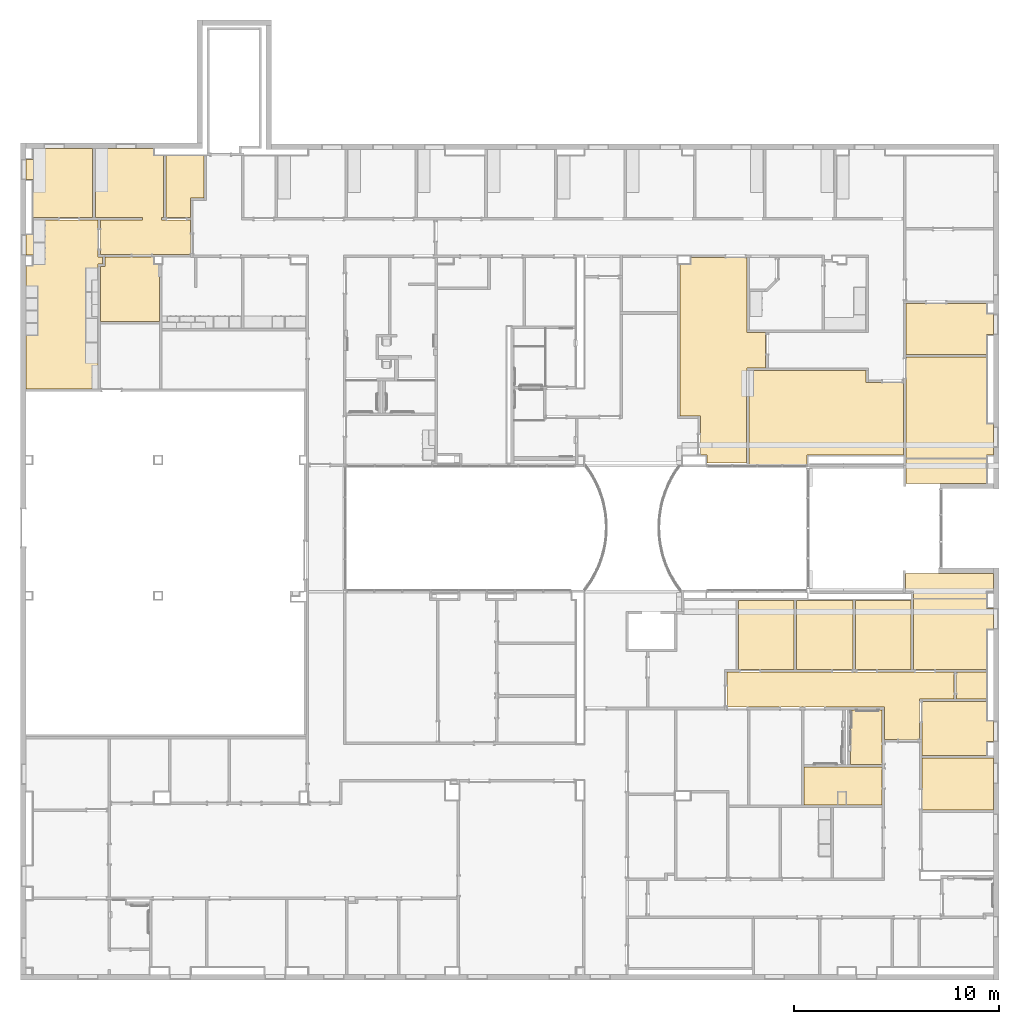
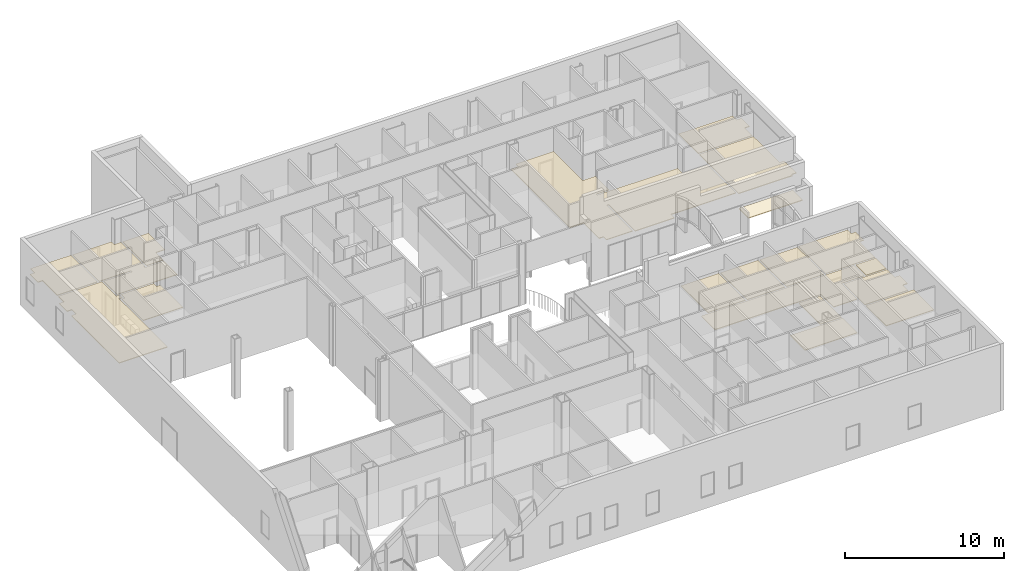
# One storey, part 28 of 45: 20 coverings.
"""IFC2X3 building model written with IfcOpenShell, lengths in metres."""

from ifc_helpers import new_model, entity, si_unit, converted_unit, frame, origin, place, context, project, spatial, face_set, surface_model, material, layer, layer_set, layer_usage, element, save


model = new_model("IFC2X3")

# Units and contexts
model_context = context("Model", 3, precision=1e-09, world=origin())
plan_context = context("Plan", 3, precision=1e-09, world=origin())
ifc_project = project(units=[si_unit("LENGTHUNIT", "METRE"), si_unit("AREAUNIT", "SQUARE_METRE"), si_unit("VOLUMEUNIT", "CUBIC_METRE"), converted_unit("PLANEANGLEUNIT", "DEGREE", entity("IfcRatioMeasure", 0.01745329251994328), si_unit("PLANEANGLEUNIT", "RADIAN"), dimensions=[0, 0, 0, 0, 0, 0, 0]), si_unit("TIMEUNIT", "SECOND")], contexts=[model_context, plan_context])

# Site, building, storey
site_placement = place(None, origin())
site = spatial("IfcSite", under=ifc_project, at=site_placement, Name="Default", CompositionType="ELEMENT")
building_placement = place(site_placement, origin())
building = spatial("IfcBuilding", under=site, at=building_placement, CompositionType="ELEMENT")
storey_placement = place(building_placement, frame((0.0, 0.0, 4.570000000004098)))
storey = spatial("IfcBuildingStorey", under=building, at=storey_placement, Name="Second Floor", CompositionType="ELEMENT", Elevation=4.570000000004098)

# Coverings
ifc_material_1 = material(Name="Default")
ifc_layer_1 = layer(ifc_material_1, 0.03599999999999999)
ifc_material_2 = material(Name="Ceiling Tile 600 x 600")
ifc_layer_2 = layer(ifc_material_2, 0.016)
ifc_layer_set_1 = layer_set([ifc_layer_1, ifc_layer_2], Name="Compound Ceiling:ACT 600 x 600mm Grid")
ifc_layer_usage_1 = layer_usage(ifc_layer_set_1, "AXIS3", "NEGATIVE", 0.0)
covering_1_placement = place(storey_placement, origin())
element("IfcCovering", 1, at=covering_1_placement, inside=storey, material=ifc_layer_usage_1, Name="Compound Ceiling:ACT 600 x 600mm Grid", ObjectType="Compound Ceiling:ACT 600 x 600mm Grid", PredefinedType="CEILING", context=model_context, shape_type="SurfaceModel", body=[
    surface_model("IfcFaceBasedSurfaceModel", [(-12.88600000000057, 24.68443871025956, 2.732000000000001), (-1.810000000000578, 24.68443871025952, 2.732000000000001), (-1.810000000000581, 23.38443871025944, 2.732000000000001), (-3.49000000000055, 23.38443871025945, 2.732000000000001), (-3.490000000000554, 21.40103871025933, 2.732000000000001), (-5.200000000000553, 21.40103871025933, 2.732000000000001), (-5.200000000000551, 22.97443871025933, 2.732000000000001), (-12.88600000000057, 22.97443871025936, 2.732000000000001), (-12.88600000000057, 24.68443871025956, 2.680000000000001), (-1.810000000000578, 24.68443871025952, 2.680000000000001), (-1.810000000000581, 23.38443871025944, 2.680000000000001), (-3.49000000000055, 23.38443871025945, 2.680000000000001), (-3.490000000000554, 21.40103871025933, 2.680000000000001), (-5.200000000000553, 21.40103871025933, 2.680000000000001), (-5.200000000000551, 22.97443871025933, 2.680000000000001), (-12.88600000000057, 22.97443871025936, 2.680000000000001)], [face_set([[[0, 1, 2, 3, 4, 5, 6, 7]], [[8, 9, 10, 11, 12, 13, 14, 15]], [[7, 15, 8, 0]], [[6, 7, 15, 14]], [[5, 13, 14, 6]], [[4, 5, 13, 12]], [[3, 4, 12, 11]], [[2, 3, 11, 10]], [[1, 2, 10, 9]], [[0, 8, 9, 1]]])]),
])
covering_2_placement = place(storey_placement, origin())
element("IfcCovering", 2, at=covering_2_placement, inside=storey, material=ifc_layer_usage_1, Name="Compound Ceiling:ACT 600 x 600mm Grid", ObjectType="Compound Ceiling:ACT 600 x 600mm Grid", PredefinedType="CEILING", context=model_context, shape_type="SurfaceModel", body=[
    surface_model("IfcFaceBasedSurfaceModel", [(-1.686000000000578, 24.68443871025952, 2.732000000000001), (-0.2300000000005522, 24.68443871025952, 2.732000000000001), (-0.230000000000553, 23.38443871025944, 2.732000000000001), (-1.686000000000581, 23.38443871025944, 2.732000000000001), (-1.686000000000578, 24.68443871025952, 2.680000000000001), (-0.2300000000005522, 24.68443871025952, 2.680000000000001), (-0.2300000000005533, 23.38443871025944, 2.680000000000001), (-1.686000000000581, 23.38443871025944, 2.680000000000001)], [face_set([[[0, 1, 2, 3]], [[4, 5, 6, 7]], [[3, 7, 4, 0]], [[2, 3, 7, 6]], [[1, 2, 6, 5]], [[0, 4, 5, 1]]])]),
])
covering_3_placement = place(storey_placement, origin())
element("IfcCovering", 3, at=covering_3_placement, inside=storey, material=ifc_layer_usage_1, Name="Compound Ceiling:ACT 600 x 600mm Grid", ObjectType="Compound Ceiling:ACT 600 x 600mm Grid", PredefinedType="CEILING", context=model_context, shape_type="SurfaceModel", body=[
    surface_model("IfcFaceBasedSurfaceModel", [(-6.629975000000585, 24.80843871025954, 2.732000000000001), (-6.629975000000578, 28.18443871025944, 2.732000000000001), (-3.913975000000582, 28.18443871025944, 2.732000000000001), (-3.913975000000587, 24.80843871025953, 2.732000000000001), (-6.629975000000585, 24.80843871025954, 2.680000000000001), (-6.629975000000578, 28.18443871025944, 2.680000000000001), (-3.913975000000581, 28.18443871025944, 2.680000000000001), (-3.913975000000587, 24.80843871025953, 2.680000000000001)], [face_set([[[0, 1, 2, 3]], [[4, 5, 6, 7]], [[3, 0, 4, 7]], [[2, 3, 7, 6]], [[1, 5, 6, 2]], [[0, 4, 5, 1]]])]),
])
covering_4_placement = place(storey_placement, origin())
element("IfcCovering", 4, at=covering_4_placement, inside=storey, material=ifc_layer_usage_1, Name="Compound Ceiling:ACT 600 x 600mm Grid", ObjectType="Compound Ceiling:ACT 600 x 600mm Grid", PredefinedType="CEILING", context=model_context, shape_type="SurfaceModel", body=[
    surface_model("IfcFaceBasedSurfaceModel", [(0.1129999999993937, 36.7956387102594, 2.732000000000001), (-0.2300000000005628, 36.7956387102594, 2.732000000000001), (-0.2300000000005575, 40.07443871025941, 2.732000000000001), (-4.146000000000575, 40.07443871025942, 2.732000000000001), (-4.146000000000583, 35.14049999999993, 2.732000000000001), (-0.2300000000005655, 35.14049999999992, 2.732000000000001), (-0.230000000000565, 35.2744387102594, 2.732000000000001), (0.1129999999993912, 35.2744387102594, 2.732000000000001), (0.1129999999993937, 36.7956387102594, 2.680000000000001), (0.1129999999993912, 35.2744387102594, 2.680000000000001), (-0.230000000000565, 35.2744387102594, 2.680000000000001), (-0.2300000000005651, 35.14049999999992, 2.680000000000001), (-4.146000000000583, 35.14049999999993, 2.680000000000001), (-4.146000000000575, 40.07443871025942, 2.680000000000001), (-0.2300000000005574, 40.07443871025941, 2.680000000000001), (-0.2300000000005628, 36.7956387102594, 2.680000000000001)], [face_set([[[0, 1, 2, 3, 4, 5, 6, 7]], [[8, 9, 10, 11, 12, 13, 14, 15]], [[2, 1, 15, 14]], [[3, 13, 14, 2]], [[4, 12, 13, 3]], [[5, 4, 12, 11]], [[6, 5, 11, 10]], [[7, 6, 10, 9]], [[0, 7, 9, 8]], [[1, 15, 8, 0]]])]),
])
covering_5_placement = place(storey_placement, origin())
element("IfcCovering", 5, at=covering_5_placement, inside=storey, material=ifc_layer_usage_1, Name="Compound Ceiling:ACT 600 x 600mm Grid", ObjectType="Compound Ceiling:ACT 600 x 600mm Grid", PredefinedType="CEILING", context=model_context, shape_type="SurfaceModel", body=[
    surface_model("IfcFaceBasedSurfaceModel", [(-14.64997500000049, 44.5844387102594, 2.732000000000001), (-14.64997500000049, 44.92043871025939, 2.732000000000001), (-11.92000000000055, 44.92043871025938, 2.732000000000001), (-11.92000000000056, 41.25443871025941, 2.732000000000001), (-11.00500000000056, 41.25443871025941, 2.732000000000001), (-11.00500000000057, 39.54443871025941, 2.732000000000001), (-11.92000000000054, 39.54443871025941, 2.732000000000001), (-11.92000000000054, 39.4204387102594, 2.732000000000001), (-6.104000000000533, 39.42043871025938, 2.732000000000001), (-6.104000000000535, 38.82043871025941, 2.732000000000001), (-4.270000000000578, 38.8204387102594, 2.732000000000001), (-4.270000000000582, 35.2744387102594, 2.732000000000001), (-8.981726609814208, 35.2744387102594, 2.732000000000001), (-8.981726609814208, 34.83380159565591, 2.732000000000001), (-11.83000000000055, 34.83380159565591, 2.732000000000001), (-11.83000000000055, 38.1449715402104, 2.732000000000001), (-11.95400000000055, 38.1449715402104, 2.732000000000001), (-11.95400000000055, 34.90443871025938, 2.732000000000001), (-13.8725000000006, 34.90443871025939, 2.732000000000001), (-13.8725000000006, 35.27443871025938, 2.732000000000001), (-14.19600000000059, 35.27443871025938, 2.732000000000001), (-14.19600000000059, 37.19843871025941, 2.732000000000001), (-15.1960000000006, 37.19843871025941, 2.732000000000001), (-15.19600000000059, 42.28643871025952, 2.732000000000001), (-15.19600000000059, 44.5844387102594, 2.732000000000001), (-14.64997500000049, 44.5844387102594, 2.680000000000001), (-14.64997500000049, 44.92043871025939, 2.680000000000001), (-11.92000000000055, 44.92043871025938, 2.680000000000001), (-11.92000000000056, 41.25443871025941, 2.680000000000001), (-11.00500000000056, 41.25443871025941, 2.680000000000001), (-11.00500000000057, 39.54443871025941, 2.680000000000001), (-11.92000000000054, 39.54443871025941, 2.680000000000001), (-11.92000000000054, 39.4204387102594, 2.680000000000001), (-6.104000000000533, 39.42043871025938, 2.680000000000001), (-6.104000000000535, 38.82043871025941, 2.680000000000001), (-4.270000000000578, 38.8204387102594, 2.680000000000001), (-4.270000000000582, 35.2744387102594, 2.680000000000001), (-8.981726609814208, 35.2744387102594, 2.680000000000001), (-8.981726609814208, 34.83380159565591, 2.680000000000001), (-11.83000000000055, 34.83380159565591, 2.680000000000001), (-11.83000000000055, 38.1449715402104, 2.680000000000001), (-11.95400000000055, 38.1449715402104, 2.680000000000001), (-11.95400000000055, 34.90443871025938, 2.680000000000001), (-13.8725000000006, 34.90443871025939, 2.680000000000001), (-13.8725000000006, 35.27443871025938, 2.680000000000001), (-14.19600000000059, 35.27443871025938, 2.680000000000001), (-14.19600000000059, 37.19843871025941, 2.680000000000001), (-15.1960000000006, 37.19843871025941, 2.680000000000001), (-15.19600000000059, 42.28643871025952, 2.680000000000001), (-15.19600000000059, 44.5844387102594, 2.680000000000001)], [face_set([[[0, 1, 2, 3, 4, 5, 6, 7, 8, 9, 10, 11, 12, 13, 14, 15, 16, 17, 18, 19, 20, 21, 22, 23, 24]], [[25, 26, 27, 28, 29, 30, 31, 32, 33, 34, 35, 36, 37, 38, 39, 40, 41, 42, 43, 44, 45, 46, 47, 48, 49]], [[24, 49, 25, 0]], [[23, 48, 49, 24]], [[22, 47, 48, 23]], [[21, 22, 47, 46]], [[20, 45, 46, 21]], [[19, 20, 45, 44]], [[18, 43, 44, 19]], [[17, 18, 43, 42]], [[16, 17, 42, 41]], [[15, 16, 41, 40]], [[14, 39, 40, 15]], [[13, 14, 39, 38]], [[12, 13, 38, 37]], [[11, 12, 37, 36]], [[10, 11, 36, 35]], [[9, 34, 35, 10]], [[8, 9, 34, 33]], [[7, 32, 33, 8]], [[6, 7, 32, 31]], [[5, 6, 31, 30]], [[4, 5, 30, 29]], [[3, 28, 29, 4]], [[2, 3, 28, 27]], [[1, 26, 27, 2]], [[0, 25, 26, 1]]])]),
])
covering_6_placement = place(storey_placement, origin())
element("IfcCovering", 6, at=covering_6_placement, inside=storey, material=ifc_layer_usage_1, Name="Compound Ceiling:ACT 600 x 600mm Grid", ObjectType="Compound Ceiling:ACT 600 x 600mm Grid", PredefinedType="CEILING", context=model_context, shape_type="SurfaceModel", body=[
    surface_model("IfcFaceBasedSurfaceModel", [(-12.32997500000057, 24.80843871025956, 2.732000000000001), (-12.32997500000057, 28.18443871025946, 2.732000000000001), (-9.613975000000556, 28.18443871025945, 2.732000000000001), (-9.613975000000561, 24.80843871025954, 2.732000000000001), (-12.32997500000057, 24.80843871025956, 2.680000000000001), (-12.32997500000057, 28.18443871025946, 2.680000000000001), (-9.613975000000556, 28.18443871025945, 2.680000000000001), (-9.613975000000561, 24.80843871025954, 2.680000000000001)], [face_set([[[0, 1, 2, 3]], [[4, 5, 6, 7]], [[3, 0, 4, 7]], [[2, 3, 7, 6]], [[1, 5, 6, 2]], [[0, 4, 5, 1]]])]),
])
covering_7_placement = place(storey_placement, origin())
element("IfcCovering", 7, at=covering_7_placement, inside=storey, material=ifc_layer_usage_1, Name="Compound Ceiling:ACT 600 x 600mm Grid", ObjectType="Compound Ceiling:ACT 600 x 600mm Grid", PredefinedType="CEILING", context=model_context, shape_type="SurfaceModel", body=[
    surface_model("IfcFaceBasedSurfaceModel", [(0.1129999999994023, 42.1644387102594, 2.732000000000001), (-0.230000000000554, 42.1644387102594, 2.732000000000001), (-0.2300000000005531, 42.67043871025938, 2.732000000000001), (-4.14600000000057, 42.6704387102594, 2.732000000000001), (-4.146000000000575, 40.19843871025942, 2.732000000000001), (-0.2300000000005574, 40.19843871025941, 2.732000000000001), (-0.2300000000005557, 41.16435057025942, 2.732000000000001), (0.1129999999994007, 41.16435057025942, 2.732000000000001), (0.1129999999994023, 42.1644387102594, 2.680000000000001), (0.1129999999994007, 41.16435057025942, 2.680000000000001), (-0.2300000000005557, 41.16435057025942, 2.680000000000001), (-0.2300000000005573, 40.19843871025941, 2.680000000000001), (-4.146000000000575, 40.19843871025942, 2.680000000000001), (-4.14600000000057, 42.6704387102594, 2.680000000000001), (-0.230000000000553, 42.67043871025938, 2.680000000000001), (-0.230000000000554, 42.1644387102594, 2.680000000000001)], [face_set([[[0, 1, 2, 3, 4, 5, 6, 7]], [[8, 9, 10, 11, 12, 13, 14, 15]], [[2, 1, 15, 14]], [[3, 13, 14, 2]], [[4, 12, 13, 3]], [[5, 4, 12, 11]], [[6, 5, 11, 10]], [[7, 6, 10, 9]], [[0, 7, 9, 8]], [[1, 15, 8, 0]]])]),
])
covering_8_placement = place(storey_placement, origin())
element("IfcCovering", 8, at=covering_8_placement, inside=storey, material=ifc_layer_usage_1, Name="Compound Ceiling:ACT 600 x 600mm Grid", ObjectType="Compound Ceiling:ACT 600 x 600mm Grid", PredefinedType="CEILING", context=model_context, shape_type="SurfaceModel", body=[
    surface_model("IfcFaceBasedSurfaceModel", [(-6.870000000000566, 20.17843871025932, 2.732000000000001), (-6.870000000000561, 22.85043871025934, 2.732000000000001), (-5.324000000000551, 22.85043871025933, 2.732000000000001), (-5.324000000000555, 20.17843871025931, 2.732000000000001), (-6.870000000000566, 20.17843871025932, 2.680000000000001), (-6.870000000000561, 22.85043871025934, 2.680000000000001), (-5.324000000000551, 22.85043871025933, 2.680000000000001), (-5.324000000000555, 20.17843871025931, 2.680000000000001)], [face_set([[[0, 1, 2, 3]], [[4, 5, 6, 7]], [[3, 0, 4, 7]], [[2, 3, 7, 6]], [[1, 5, 6, 2]], [[0, 4, 5, 1]]])]),
])
covering_9_placement = place(storey_placement, origin())
element("IfcCovering", 9, at=covering_9_placement, inside=storey, material=ifc_layer_usage_1, Name="Compound Ceiling:ACT 600 x 600mm Grid", ObjectType="Compound Ceiling:ACT 600 x 600mm Grid", PredefinedType="CEILING", context=model_context, shape_type="SurfaceModel", body=[
    surface_model("IfcFaceBasedSurfaceModel", [(-3.789975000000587, 24.80843871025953, 2.732000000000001), (-3.789975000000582, 28.2495, 2.732000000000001), (-0.230000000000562, 28.24949999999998, 2.732000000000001), (-0.2300000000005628, 27.79443871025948, 2.732000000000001), (0.1129999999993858, 27.79443871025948, 2.732000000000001), (0.1129999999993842, 26.79443871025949, 2.732000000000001), (-0.2300000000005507, 26.79443871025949, 2.732000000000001), (-0.230000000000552, 24.80843871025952, 2.732000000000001), (-3.789975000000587, 24.80843871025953, 2.680000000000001), (-3.789975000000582, 28.2495, 2.680000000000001), (-0.2300000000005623, 28.24949999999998, 2.680000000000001), (-0.2300000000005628, 27.79443871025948, 2.680000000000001), (0.1129999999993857, 27.79443871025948, 2.680000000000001), (0.1129999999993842, 26.79443871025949, 2.680000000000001), (-0.2300000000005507, 26.79443871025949, 2.680000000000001), (-0.2300000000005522, 24.80843871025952, 2.680000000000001)], [face_set([[[0, 1, 2, 3, 4, 5, 6, 7]], [[8, 9, 10, 11, 12, 13, 14, 15]], [[0, 8, 9, 1]], [[7, 0, 8, 15]], [[6, 7, 15, 14]], [[5, 6, 14, 13]], [[4, 5, 13, 12]], [[3, 11, 12, 4]], [[2, 3, 11, 10]], [[1, 9, 10, 2]]])]),
])
covering_10_placement = place(storey_placement, origin())
element("IfcCovering", 10, at=covering_10_placement, inside=storey, material=ifc_layer_usage_1, Name="Compound Ceiling:ACT 600 x 600mm Grid", ObjectType="Compound Ceiling:ACT 600 x 600mm Grid", PredefinedType="CEILING", context=model_context, shape_type="SurfaceModel", body=[
    surface_model("IfcFaceBasedSurfaceModel", [(-9.489975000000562, 24.80843871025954, 2.732000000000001), (-9.489975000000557, 28.18443871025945, 2.732000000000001), (-6.75397500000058, 28.18443871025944, 2.732000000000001), (-6.753975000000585, 24.80843871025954, 2.732000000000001), (-9.489975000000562, 24.80843871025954, 2.680000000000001), (-9.489975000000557, 28.18443871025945, 2.680000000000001), (-6.75397500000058, 28.18443871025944, 2.680000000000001), (-6.753975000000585, 24.80843871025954, 2.680000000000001)], [face_set([[[0, 1, 2, 3]], [[4, 5, 6, 7]], [[3, 0, 4, 7]], [[2, 3, 7, 6]], [[1, 5, 6, 2]], [[0, 4, 5, 1]]])]),
])
covering_11_placement = place(storey_placement, origin())
element("IfcCovering", 11, at=covering_11_placement, inside=storey, material=ifc_layer_usage_1, Name="Compound Ceiling:ACT 600 x 600mm Grid", ObjectType="Compound Ceiling:ACT 600 x 600mm Grid", PredefinedType="CEILING", context=model_context, shape_type="SurfaceModel", body=[
    surface_model("IfcFaceBasedSurfaceModel", [(0.1129999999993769, 22.29443871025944, 2.732000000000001), (-0.2300000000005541, 22.29443871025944, 2.732000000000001), (-0.2300000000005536, 23.26043871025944, 2.732000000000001), (-3.36600000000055, 23.26043871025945, 2.732000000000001), (-3.366000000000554, 21.33903871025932, 2.732000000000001), (-3.366000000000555, 20.62843871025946, 2.732000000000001), (-0.2300000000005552, 20.62843871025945, 2.732000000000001), (-0.2300000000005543, 21.29443871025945, 2.732000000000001), (0.1129999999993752, 21.29443871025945, 2.732000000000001), (0.1129999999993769, 22.29443871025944, 2.680000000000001), (0.1129999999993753, 21.29443871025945, 2.680000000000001), (-0.2300000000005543, 21.29443871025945, 2.680000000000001), (-0.2300000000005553, 20.62843871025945, 2.680000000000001), (-3.366000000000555, 20.62843871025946, 2.680000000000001), (-3.366000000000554, 21.33903871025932, 2.680000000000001), (-3.36600000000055, 23.26043871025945, 2.680000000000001), (-0.2300000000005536, 23.26043871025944, 2.680000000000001), (-0.2300000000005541, 22.29443871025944, 2.680000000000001)], [face_set([[[0, 1, 2, 3, 4, 5, 6, 7, 8]], [[9, 10, 11, 12, 13, 14, 15, 16, 17]], [[2, 1, 17, 16]], [[3, 15, 16, 2]], [[4, 14, 15, 3]], [[5, 13, 14, 4]], [[6, 5, 13, 12]], [[7, 6, 12, 11]], [[8, 7, 11, 10]], [[0, 8, 10, 9]], [[1, 17, 9, 0]]])]),
])
ifc_material_3 = material(Name="Metal - Stud Layer")
ifc_layer_3 = layer(ifc_material_3, 0.045)
ifc_material_4 = material(Name="Plasterboard")
ifc_layer_4 = layer(ifc_material_4, 0.012)
ifc_layer_set_2 = layer_set([ifc_layer_3, ifc_layer_4], Name="Compound Ceiling:Gypsum Board")
ifc_layer_usage_2 = layer_usage(ifc_layer_set_2, "AXIS3", "NEGATIVE", 0.0)
covering_12_placement = place(storey_placement, origin())
element("IfcCovering", 12, at=covering_12_placement, inside=storey, material=ifc_layer_usage_2, Name="Compound Ceiling:Gypsum Board", ObjectType="Compound Ceiling:Gypsum Board", PredefinedType="CEILING", context=model_context, shape_type="SurfaceModel", body=[
    surface_model("IfcFaceBasedSurfaceModel", [(-4.146000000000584, 33.89700000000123, 1.607), (-4.146000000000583, 35.08649999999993, 1.607), (-4.146000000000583, 35.12849999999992, 1.607), (-0.2310000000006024, 35.12849999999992, 1.607), (-0.2310000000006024, 35.08649999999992, 1.607), (-0.2310000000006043, 33.89700000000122, 1.607), (-4.146000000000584, 33.89700000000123, 1.55), (-4.146000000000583, 35.12849999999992, 1.55), (-0.2310000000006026, 35.12849999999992, 1.55), (-0.2310000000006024, 35.08649999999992, 1.55), (-0.2310000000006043, 33.89700000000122, 1.55)], [face_set([[[0, 1, 2, 3, 4, 5]], [[6, 7, 8, 9, 10]], [[0, 6, 7, 2, 1]], [[2, 7, 8, 3]], [[3, 4, 5, 10, 9, 8]], [[5, 0, 6, 10]]])]),
])
covering_13_placement = place(storey_placement, origin())
element("IfcCovering", 13, at=covering_13_placement, inside=storey, material=ifc_layer_usage_1, Name="Compound Ceiling:ACT 600 x 600mm Grid", ObjectType="Compound Ceiling:ACT 600 x 600mm Grid", PredefinedType="CEILING", context=model_context, shape_type="SurfaceModel", body=[
    surface_model("IfcFaceBasedSurfaceModel", [(-47.11300000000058, 38.51843871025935, 2.732000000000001), (-47.11300000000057, 44.50692803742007, 2.732000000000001), (-46.77000000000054, 44.50692803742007, 2.732000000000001), (-46.77000000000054, 45.0444387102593, 2.732000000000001), (-47.11300000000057, 45.0444387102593, 2.732000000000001), (-47.11300000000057, 46.04443913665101, 2.732000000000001), (-46.77000000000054, 46.04443913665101, 2.732000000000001), (-46.77000000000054, 46.75443871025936, 2.732000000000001), (-43.60000000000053, 46.75443871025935, 2.732000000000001), (-43.60000000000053, 44.95443871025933, 2.732000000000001), (-43.37000000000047, 44.95443871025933, 2.732000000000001), (-43.37000000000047, 44.60443871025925, 2.732000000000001), (-43.60000000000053, 44.60443871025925, 2.732000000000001), (-43.60000000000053, 38.51843871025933, 2.732000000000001), (-47.11300000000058, 38.51843871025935, 2.680000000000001), (-47.11300000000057, 44.50692803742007, 2.680000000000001), (-46.77000000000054, 44.50692803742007, 2.680000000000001), (-46.77000000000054, 45.0444387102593, 2.680000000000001), (-47.11300000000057, 45.0444387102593, 2.680000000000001), (-47.11300000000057, 46.04443913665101, 2.680000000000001), (-46.77000000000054, 46.04443913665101, 2.680000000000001), (-46.77000000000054, 46.75443871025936, 2.680000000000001), (-43.60000000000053, 46.75443871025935, 2.680000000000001), (-43.60000000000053, 44.95443871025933, 2.680000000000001), (-43.37000000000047, 44.95443871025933, 2.680000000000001), (-43.37000000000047, 44.60443871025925, 2.680000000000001), (-43.60000000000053, 44.60443871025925, 2.680000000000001), (-43.60000000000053, 38.51843871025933, 2.680000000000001)], [face_set([[[0, 1, 2, 3, 4, 5, 6, 7, 8, 9, 10, 11, 12, 13]], [[14, 15, 16, 17, 18, 19, 20, 21, 22, 23, 24, 25, 26, 27]], [[13, 0, 14, 27]], [[12, 13, 27, 26]], [[11, 12, 26, 25]], [[10, 11, 25, 24]], [[9, 23, 24, 10]], [[8, 9, 23, 22]], [[7, 21, 22, 8]], [[6, 20, 21, 7]], [[5, 19, 20, 6]], [[4, 18, 19, 5]], [[3, 4, 18, 17]], [[2, 16, 17, 3]], [[1, 15, 16, 2]], [[0, 14, 15, 1]]])]),
])
covering_14_placement = place(storey_placement, origin())
element("IfcCovering", 14, at=covering_14_placement, inside=storey, material=ifc_layer_usage_1, Name="Compound Ceiling:ACT 600 x 600mm Grid", ObjectType="Compound Ceiling:ACT 600 x 600mm Grid", PredefinedType="CEILING", context=model_context, shape_type="SurfaceModel", body=[
    surface_model("IfcFaceBasedSurfaceModel", [(-9.126000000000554, 20.05443871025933, 2.732000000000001), (-5.324000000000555, 20.05443871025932, 2.732000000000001), (-5.324000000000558, 18.20443871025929, 2.732000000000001), (-9.126000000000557, 18.2044387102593, 2.732000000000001), (-9.126000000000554, 20.05443871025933, 2.680000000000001), (-5.324000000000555, 20.05443871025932, 2.680000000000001), (-5.324000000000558, 18.20443871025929, 2.680000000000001), (-9.126000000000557, 18.2044387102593, 2.680000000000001)], [face_set([[[0, 1, 2, 3]], [[4, 5, 6, 7]], [[3, 7, 4, 0]], [[2, 3, 7, 6]], [[1, 2, 6, 5]], [[0, 4, 5, 1]]])]),
])
covering_15_placement = place(storey_placement, origin())
element("IfcCovering", 15, at=covering_15_placement, inside=storey, material=ifc_layer_usage_1, Name="Compound Ceiling:ACT 600 x 600mm Grid", ObjectType="Compound Ceiling:ACT 600 x 600mm Grid", PredefinedType="CEILING", context=model_context, shape_type="SurfaceModel", body=[
    surface_model("IfcFaceBasedSurfaceModel", [(-40.28600000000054, 49.89443871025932, 2.732000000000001), (-38.42400000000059, 49.89443871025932, 2.732000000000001), (-38.42400000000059, 47.82843871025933, 2.732000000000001), (-39.08400000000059, 47.82843871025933, 2.732000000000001), (-39.08400000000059, 46.87843871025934, 2.732000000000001), (-40.28600000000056, 46.87843871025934, 2.732000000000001), (-40.28600000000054, 49.89443871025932, 2.680000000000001), (-38.42400000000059, 49.89443871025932, 2.680000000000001), (-38.42400000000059, 47.82843871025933, 2.680000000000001), (-39.08400000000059, 47.82843871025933, 2.680000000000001), (-39.08400000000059, 46.87843871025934, 2.680000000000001), (-40.28600000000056, 46.87843871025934, 2.680000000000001)], [face_set([[[0, 1, 2, 3, 4, 5]], [[6, 7, 8, 9, 10, 11]], [[5, 11, 6, 0]], [[4, 5, 11, 10]], [[3, 4, 10, 9]], [[2, 3, 9, 8]], [[1, 2, 8, 7]], [[0, 6, 7, 1]]])]),
])
covering_16_placement = place(storey_placement, origin())
element("IfcCovering", 16, at=covering_16_placement, inside=storey, material=ifc_layer_usage_2, Name="Compound Ceiling:Gypsum Board", ObjectType="Compound Ceiling:Gypsum Board", PredefinedType="CEILING", context=model_context, shape_type="SurfaceModel", body=[
    surface_model("IfcFaceBasedSurfaceModel", [(-4.180000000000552, 29.49299999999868, 1.607), (0.1129999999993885, 29.49299999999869, 1.607), (0.1129999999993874, 28.64443871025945, 1.607), (-0.2310000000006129, 28.64443871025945, 1.607), (-0.2310000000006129, 28.30349999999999, 1.607), (-0.2310000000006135, 28.26149999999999, 1.607), (-3.789975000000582, 28.2615, 1.607), (-3.789975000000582, 28.30349999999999, 1.607), (-3.789975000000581, 28.58243871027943, 1.607), (-4.180000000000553, 28.58243871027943, 1.607), (-4.180000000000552, 29.49299999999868, 1.55), (0.1129999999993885, 29.49299999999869, 1.55), (0.1129999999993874, 28.64443871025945, 1.55), (-0.2310000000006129, 28.64443871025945, 1.55), (-0.2310000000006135, 28.26149999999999, 1.55), (-3.789975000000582, 28.2615, 1.55), (-3.789975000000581, 28.58243871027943, 1.55), (-4.180000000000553, 28.58243871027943, 1.55)], [face_set([[[0, 1, 2, 3, 4, 5, 6, 7, 8, 9]], [[10, 11, 12, 13, 14, 15, 16, 17]], [[9, 17, 10, 0]], [[8, 9, 17, 16]], [[6, 15, 16, 8, 7]], [[5, 6, 15, 14]], [[3, 4, 5, 14, 13]], [[2, 3, 13, 12]], [[1, 2, 12, 11]], [[0, 10, 11, 1]]])]),
])
covering_17_placement = place(storey_placement, origin())
element("IfcCovering", 17, at=covering_17_placement, inside=storey, material=ifc_layer_usage_1, Name="Compound Ceiling:ACT 600 x 600mm Grid", ObjectType="Compound Ceiling:ACT 600 x 600mm Grid", PredefinedType="CEILING", context=model_context, shape_type="SurfaceModel", body=[
    surface_model("IfcFaceBasedSurfaceModel", [(-47.11300000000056, 48.72244629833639, 2.732000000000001), (-46.77000000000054, 48.72244629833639, 2.732000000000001), (-46.77000000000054, 46.87843871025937, 2.732000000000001), (-43.85400000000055, 46.87843871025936, 2.732000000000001), (-43.85400000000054, 50.23743871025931, 2.732000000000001), (-46.77000000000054, 50.23743871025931, 2.732000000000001), (-46.77000000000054, 49.72244628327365, 2.732000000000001), (-47.11300000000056, 49.72244628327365, 2.732000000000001), (-47.11300000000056, 48.72244629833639, 2.680000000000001), (-47.11300000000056, 49.72244628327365, 2.680000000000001), (-46.77000000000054, 49.72244628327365, 2.680000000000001), (-46.77000000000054, 50.23743871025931, 2.680000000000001), (-43.85400000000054, 50.23743871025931, 2.680000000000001), (-43.85400000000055, 46.87843871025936, 2.680000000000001), (-46.77000000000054, 46.87843871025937, 2.680000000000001), (-46.77000000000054, 48.72244629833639, 2.680000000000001)], [face_set([[[0, 1, 2, 3, 4, 5, 6, 7]], [[8, 9, 10, 11, 12, 13, 14, 15]], [[2, 14, 15, 1]], [[3, 2, 14, 13]], [[4, 3, 13, 12]], [[5, 11, 12, 4]], [[6, 10, 11, 5]], [[7, 9, 10, 6]], [[0, 8, 9, 7]], [[1, 0, 8, 15]]])]),
])
covering_18_placement = place(storey_placement, origin())
element("IfcCovering", 18, at=covering_18_placement, inside=storey, material=ifc_layer_usage_1, Name="Compound Ceiling:ACT 600 x 600mm Grid", ObjectType="Compound Ceiling:ACT 600 x 600mm Grid", PredefinedType="CEILING", context=model_context, shape_type="SurfaceModel", body=[
    surface_model("IfcFaceBasedSurfaceModel", [(-3.366000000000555, 20.50443871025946, 2.732000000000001), (0.1129999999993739, 20.50443871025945, 2.732000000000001), (0.1129999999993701, 17.96793871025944, 2.732000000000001), (-3.366000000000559, 17.96793871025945, 2.732000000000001), (-3.366000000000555, 20.50443871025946, 2.680000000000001), (0.1129999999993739, 20.50443871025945, 2.680000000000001), (0.1129999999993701, 17.96793871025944, 2.680000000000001), (-3.366000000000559, 17.96793871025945, 2.680000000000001)], [face_set([[[0, 1, 2, 3]], [[4, 5, 6, 7]], [[3, 7, 4, 0]], [[2, 3, 7, 6]], [[1, 2, 6, 5]], [[0, 4, 5, 1]]])]),
])
covering_19_placement = place(storey_placement, origin())
element("IfcCovering", 19, at=covering_19_placement, inside=storey, material=ifc_layer_usage_1, Name="Compound Ceiling:ACT 600 x 600mm Grid", ObjectType="Compound Ceiling:ACT 600 x 600mm Grid", PredefinedType="CEILING", context=model_context, shape_type="SurfaceModel", body=[
    surface_model("IfcFaceBasedSurfaceModel", [(-43.73000000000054, 46.87843871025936, 2.732000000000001), (-41.42500000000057, 46.87843871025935, 2.732000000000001), (-41.42500000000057, 46.75443871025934, 2.732000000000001), (-43.47600000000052, 46.75443871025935, 2.732000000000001), (-43.47600000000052, 45.07843871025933, 2.732000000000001), (-43.30800000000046, 45.07843871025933, 2.732000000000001), (-39.0840000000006, 45.07843871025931, 2.732000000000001), (-39.08400000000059, 46.75443871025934, 2.732000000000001), (-40.51000000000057, 46.75443871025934, 2.732000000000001), (-40.51000000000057, 46.87843871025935, 2.732000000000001), (-40.41000000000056, 46.87843871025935, 2.732000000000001), (-40.41000000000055, 49.89443871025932, 2.732000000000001), (-40.89000000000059, 49.89443871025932, 2.732000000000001), (-40.89000000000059, 50.2374387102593, 2.732000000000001), (-43.73000000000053, 50.23743871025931, 2.732000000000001), (-43.73000000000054, 46.87843871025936, 2.680000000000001), (-43.73000000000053, 50.23743871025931, 2.680000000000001), (-40.89000000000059, 50.2374387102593, 2.680000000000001), (-40.89000000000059, 49.89443871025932, 2.680000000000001), (-40.41000000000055, 49.89443871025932, 2.680000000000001), (-40.41000000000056, 46.87843871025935, 2.680000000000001), (-40.51000000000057, 46.87843871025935, 2.680000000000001), (-40.51000000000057, 46.75443871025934, 2.680000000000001), (-39.08400000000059, 46.75443871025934, 2.680000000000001), (-39.0840000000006, 45.07843871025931, 2.680000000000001), (-43.30800000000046, 45.07843871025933, 2.680000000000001), (-43.47600000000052, 45.07843871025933, 2.680000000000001), (-43.47600000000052, 46.75443871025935, 2.680000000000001), (-41.42500000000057, 46.75443871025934, 2.680000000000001), (-41.42500000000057, 46.87843871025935, 2.680000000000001)], [face_set([[[0, 1, 2, 3, 4, 5, 6, 7, 8, 9, 10, 11, 12, 13, 14]], [[15, 16, 17, 18, 19, 20, 21, 22, 23, 24, 25, 26, 27, 28, 29]], [[1, 0, 15, 29]], [[2, 28, 29, 1]], [[3, 27, 28, 2]], [[4, 26, 27, 3]], [[5, 4, 26, 25]], [[6, 5, 25, 24]], [[7, 6, 24, 23]], [[8, 22, 23, 7]], [[9, 8, 22, 21]], [[10, 9, 21, 20]], [[11, 10, 20, 19]], [[12, 18, 19, 11]], [[13, 12, 18, 17]], [[14, 16, 17, 13]], [[0, 15, 16, 14]]])]),
])
covering_20_placement = place(storey_placement, origin())
element("IfcCovering", 20, at=covering_20_placement, inside=storey, material=ifc_layer_usage_1, Name="Compound Ceiling:ACT 600 x 600mm Grid", ObjectType="Compound Ceiling:ACT 600 x 600mm Grid", PredefinedType="CEILING", context=model_context, shape_type="SurfaceModel", body=[
    surface_model("IfcFaceBasedSurfaceModel", [(-43.47600000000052, 41.79843871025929, 2.732000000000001), (-43.47600000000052, 44.48043871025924, 2.732000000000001), (-43.24600000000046, 44.48043871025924, 2.732000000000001), (-43.24600000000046, 44.95443871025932, 2.732000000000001), (-40.8900000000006, 44.95443871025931, 2.732000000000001), (-40.8900000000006, 44.5844387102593, 2.732000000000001), (-40.60000000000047, 44.5844387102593, 2.732000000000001), (-40.60000000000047, 41.79843871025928, 2.732000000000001), (-43.47600000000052, 41.79843871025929, 2.680000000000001), (-43.47600000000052, 44.48043871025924, 2.680000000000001), (-43.24600000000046, 44.48043871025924, 2.680000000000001), (-43.24600000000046, 44.95443871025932, 2.680000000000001), (-40.8900000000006, 44.95443871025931, 2.680000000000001), (-40.8900000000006, 44.5844387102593, 2.680000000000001), (-40.60000000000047, 44.5844387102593, 2.680000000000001), (-40.60000000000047, 41.79843871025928, 2.680000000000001)], [face_set([[[0, 1, 2, 3, 4, 5, 6, 7]], [[8, 9, 10, 11, 12, 13, 14, 15]], [[7, 0, 8, 15]], [[6, 7, 15, 14]], [[5, 13, 14, 6]], [[4, 5, 13, 12]], [[3, 11, 12, 4]], [[2, 10, 11, 3]], [[1, 9, 10, 2]], [[0, 8, 9, 1]]])]),
])

save(model, "model.ifc")
